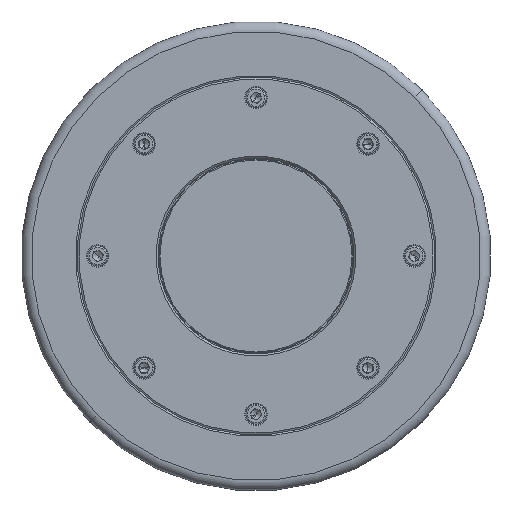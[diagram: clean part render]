
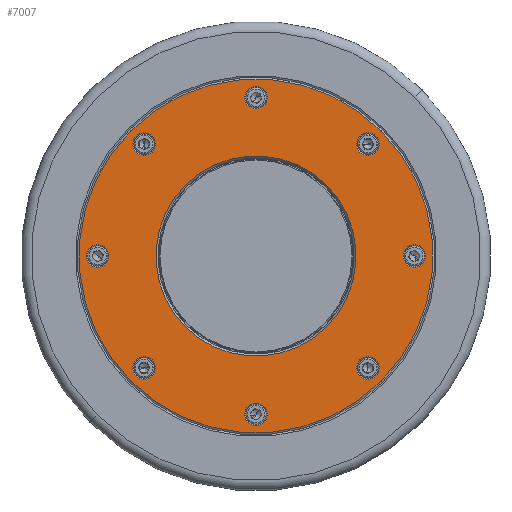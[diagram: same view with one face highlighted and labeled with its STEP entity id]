
A CAD part, left-side view. The second image highlights one B-rep face of the part: STEP entity #7007.
In plain terms, the highlighted planar face has unit normal (-1, 0, 0).
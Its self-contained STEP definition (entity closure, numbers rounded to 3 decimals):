
#5140=CARTESIAN_POINT('',(0.,0.,0.));
#5141=DIRECTION('',(-1.,0.,0.));
#5142=DIRECTION('',(0.,0.,-1.));
#5143=AXIS2_PLACEMENT_3D('',#5140,#5141,#5142);
#5145=CARTESIAN_POINT('',(0.,0.,0.));
#5146=DIRECTION('',(-1.,0.,0.));
#5147=DIRECTION('',(0.,0.,1.));
#5148=AXIS2_PLACEMENT_3D('',#5145,#5146,#5147);
#5150=CARTESIAN_POINT('',(0.,54.801,54.801));
#5151=DIRECTION('',(1.,0.,0.));
#5152=DIRECTION('',(0.,0.,-1.));
#5153=AXIS2_PLACEMENT_3D('',#5150,#5151,#5152);
#5155=CARTESIAN_POINT('',(0.,54.801,54.801));
#5156=DIRECTION('',(1.,0.,0.));
#5157=DIRECTION('',(0.,0.,1.));
#5158=AXIS2_PLACEMENT_3D('',#5155,#5156,#5157);
#5160=CARTESIAN_POINT('',(0.,0.,77.5));
#5161=DIRECTION('',(1.,0.,0.));
#5162=DIRECTION('',(0.,0.,-1.));
#5163=AXIS2_PLACEMENT_3D('',#5160,#5161,#5162);
#5165=CARTESIAN_POINT('',(0.,0.,77.5));
#5166=DIRECTION('',(1.,0.,0.));
#5167=DIRECTION('',(0.,0.,1.));
#5168=AXIS2_PLACEMENT_3D('',#5165,#5166,#5167);
#5170=CARTESIAN_POINT('',(0.,-54.801,54.801));
#5171=DIRECTION('',(1.,0.,0.));
#5172=DIRECTION('',(0.,0.,-1.));
#5173=AXIS2_PLACEMENT_3D('',#5170,#5171,#5172);
#5175=CARTESIAN_POINT('',(0.,-54.801,54.801));
#5176=DIRECTION('',(1.,0.,0.));
#5177=DIRECTION('',(0.,0.,1.));
#5178=AXIS2_PLACEMENT_3D('',#5175,#5176,#5177);
#5180=CARTESIAN_POINT('',(0.,-77.5,0.));
#5181=DIRECTION('',(1.,0.,0.));
#5182=DIRECTION('',(0.,0.,-1.));
#5183=AXIS2_PLACEMENT_3D('',#5180,#5181,#5182);
#5185=CARTESIAN_POINT('',(0.,-77.5,0.));
#5186=DIRECTION('',(1.,0.,0.));
#5187=DIRECTION('',(0.,0.,1.));
#5188=AXIS2_PLACEMENT_3D('',#5185,#5186,#5187);
#5190=CARTESIAN_POINT('',(0.,-54.801,-54.801));
#5191=DIRECTION('',(1.,0.,0.));
#5192=DIRECTION('',(0.,0.,-1.));
#5193=AXIS2_PLACEMENT_3D('',#5190,#5191,#5192);
#5195=CARTESIAN_POINT('',(0.,-54.801,-54.801));
#5196=DIRECTION('',(1.,0.,0.));
#5197=DIRECTION('',(0.,0.,1.));
#5198=AXIS2_PLACEMENT_3D('',#5195,#5196,#5197);
#5200=CARTESIAN_POINT('',(0.,0.,-77.5));
#5201=DIRECTION('',(1.,0.,0.));
#5202=DIRECTION('',(0.,0.,-1.));
#5203=AXIS2_PLACEMENT_3D('',#5200,#5201,#5202);
#5205=CARTESIAN_POINT('',(0.,0.,-77.5));
#5206=DIRECTION('',(1.,0.,0.));
#5207=DIRECTION('',(0.,0.,1.));
#5208=AXIS2_PLACEMENT_3D('',#5205,#5206,#5207);
#5210=CARTESIAN_POINT('',(0.,54.801,-54.801));
#5211=DIRECTION('',(1.,0.,0.));
#5212=DIRECTION('',(0.,0.,-1.));
#5213=AXIS2_PLACEMENT_3D('',#5210,#5211,#5212);
#5215=CARTESIAN_POINT('',(0.,54.801,-54.801));
#5216=DIRECTION('',(1.,0.,0.));
#5217=DIRECTION('',(0.,0.,1.));
#5218=AXIS2_PLACEMENT_3D('',#5215,#5216,#5217);
#5220=CARTESIAN_POINT('',(0.,77.5,0.));
#5221=DIRECTION('',(1.,0.,0.));
#5222=DIRECTION('',(0.,0.,-1.));
#5223=AXIS2_PLACEMENT_3D('',#5220,#5221,#5222);
#5225=CARTESIAN_POINT('',(0.,77.5,0.));
#5226=DIRECTION('',(1.,0.,0.));
#5227=DIRECTION('',(0.,0.,1.));
#5228=AXIS2_PLACEMENT_3D('',#5225,#5226,#5227);
#5230=CARTESIAN_POINT('',(0.,0.,0.));
#5231=DIRECTION('',(1.,0.,0.));
#5232=DIRECTION('',(0.,0.,-1.));
#5233=AXIS2_PLACEMENT_3D('',#5230,#5231,#5232);
#5235=CARTESIAN_POINT('',(0.,0.,0.));
#5236=DIRECTION('',(1.,0.,0.));
#5237=DIRECTION('',(0.,0.,1.));
#5238=AXIS2_PLACEMENT_3D('',#5235,#5236,#5237);
#6498=CARTESIAN_POINT('',(0.,-54.801,60.326));
#6499=CARTESIAN_POINT('',(0.,-54.801,49.276));
#6500=VERTEX_POINT('',#6498);
#6501=VERTEX_POINT('',#6499);
#6524=CARTESIAN_POINT('',(0.,0.,83.025));
#6525=CARTESIAN_POINT('',(0.,0.,71.975));
#6526=VERTEX_POINT('',#6524);
#6527=VERTEX_POINT('',#6525);
#6536=CARTESIAN_POINT('',(0.,-77.5,5.525));
#6537=CARTESIAN_POINT('',(0.,-77.5,-5.525));
#6538=VERTEX_POINT('',#6536);
#6539=VERTEX_POINT('',#6537);
#6542=CARTESIAN_POINT('',(0.,54.801,60.326));
#6543=CARTESIAN_POINT('',(0.,54.801,49.276));
#6544=VERTEX_POINT('',#6542);
#6545=VERTEX_POINT('',#6543);
#6571=CARTESIAN_POINT('',(0.,0.,-71.975));
#6573=VERTEX_POINT('',#6571);
#6588=CARTESIAN_POINT('',(0.,0.,-49.));
#6589=CARTESIAN_POINT('',(0.,0.,49.));
#6590=VERTEX_POINT('',#6588);
#6591=VERTEX_POINT('',#6589);
#6660=CARTESIAN_POINT('',(0.,54.801,-60.326));
#6661=CARTESIAN_POINT('',(0.,54.801,-49.276));
#6662=VERTEX_POINT('',#6660);
#6663=VERTEX_POINT('',#6661);
#6694=CARTESIAN_POINT('',(0.,0.,-83.025));
#6695=VERTEX_POINT('',#6694);
#6704=CARTESIAN_POINT('',(0.,77.5,-5.525));
#6705=CARTESIAN_POINT('',(0.,77.5,5.525));
#6706=VERTEX_POINT('',#6704);
#6707=VERTEX_POINT('',#6705);
#6710=CARTESIAN_POINT('',(0.,-54.801,-60.326));
#6711=CARTESIAN_POINT('',(0.,-54.801,-49.276));
#6712=VERTEX_POINT('',#6710);
#6713=VERTEX_POINT('',#6711);
#6718=CARTESIAN_POINT('',(0.,0.,86.634));
#6719=CARTESIAN_POINT('',(0.,0.,
-86.634));
#6720=VERTEX_POINT('',#6718);
#6721=VERTEX_POINT('',#6719);
#6944=CARTESIAN_POINT('',(0.,49.,0.));
#6945=DIRECTION('',(1.,0.,0.));
#6946=DIRECTION('',(0.,0.,-1.));
#6947=AXIS2_PLACEMENT_3D('',#6944,#6945,#6946);
#6948=PLANE('',#6947);
#6949=ORIENTED_EDGE('',*,*,#6926,.F.);
#6950=ORIENTED_EDGE('',*,*,#6936,.F.);
#6951=EDGE_LOOP('',(#6949,#6950));
#6952=FACE_OUTER_BOUND('',#6951,.F.);
#6954=ORIENTED_EDGE('',*,*,#6953,.F.);
#6956=ORIENTED_EDGE('',*,*,#6955,.F.);
#6957=EDGE_LOOP('',(#6954,#6956));
#6958=FACE_BOUND('',#6957,.F.);
#6960=ORIENTED_EDGE('',*,*,#6959,.F.);
#6962=ORIENTED_EDGE('',*,*,#6961,.F.);
#6963=EDGE_LOOP('',(#6960,#6962));
#6964=FACE_BOUND('',#6963,.F.);
#6966=ORIENTED_EDGE('',*,*,#6965,.F.);
#6968=ORIENTED_EDGE('',*,*,#6967,.F.);
#6969=EDGE_LOOP('',(#6966,#6968));
#6970=FACE_BOUND('',#6969,.F.);
#6972=ORIENTED_EDGE('',*,*,#6971,.F.);
#6974=ORIENTED_EDGE('',*,*,#6973,.F.);
#6975=EDGE_LOOP('',(#6972,#6974));
#6976=FACE_BOUND('',#6975,.F.);
#6978=ORIENTED_EDGE('',*,*,#6977,.F.);
#6980=ORIENTED_EDGE('',*,*,#6979,.F.);
#6981=EDGE_LOOP('',(#6978,#6980));
#6982=FACE_BOUND('',#6981,.F.);
#6984=ORIENTED_EDGE('',*,*,#6983,.F.);
#6986=ORIENTED_EDGE('',*,*,#6985,.F.);
#6987=EDGE_LOOP('',(#6984,#6986));
#6988=FACE_BOUND('',#6987,.F.);
#6990=ORIENTED_EDGE('',*,*,#6989,.F.);
#6992=ORIENTED_EDGE('',*,*,#6991,.F.);
#6993=EDGE_LOOP('',(#6990,#6992));
#6994=FACE_BOUND('',#6993,.F.);
#6996=ORIENTED_EDGE('',*,*,#6995,.F.);
#6998=ORIENTED_EDGE('',*,*,#6997,.F.);
#6999=EDGE_LOOP('',(#6996,#6998));
#7000=FACE_BOUND('',#6999,.F.);
#7002=ORIENTED_EDGE('',*,*,#7001,.F.);
#7004=ORIENTED_EDGE('',*,*,#7003,.F.);
#7005=EDGE_LOOP('',(#7002,#7004));
#7006=FACE_BOUND('',#7005,.F.);
#7007=ADVANCED_FACE('',(#6952,#6958,#6964,#6970,#6976,#6982,#6988,#6994,#7000,
#7006),#6948,.F.);
#5144=CIRCLE('',#5143,86.634);
#5149=CIRCLE('',#5148,86.634);
#5154=CIRCLE('',#5153,5.525);
#5159=CIRCLE('',#5158,5.525);
#5164=CIRCLE('',#5163,5.525);
#5169=CIRCLE('',#5168,5.525);
#5174=CIRCLE('',#5173,5.525);
#5179=CIRCLE('',#5178,5.525);
#5184=CIRCLE('',#5183,5.525);
#5189=CIRCLE('',#5188,5.525);
#5194=CIRCLE('',#5193,5.525);
#5199=CIRCLE('',#5198,5.525);
#5204=CIRCLE('',#5203,5.525);
#5209=CIRCLE('',#5208,5.525);
#5214=CIRCLE('',#5213,5.525);
#5219=CIRCLE('',#5218,5.525);
#5224=CIRCLE('',#5223,5.525);
#5229=CIRCLE('',#5228,5.525);
#5234=CIRCLE('',#5233,49.);
#5239=CIRCLE('',#5238,49.);
#6926=EDGE_CURVE('',#6721,#6720,#5144,.T.);
#6936=EDGE_CURVE('',#6720,#6721,#5149,.T.);
#6953=EDGE_CURVE('',#6545,#6544,#5154,.T.);
#6955=EDGE_CURVE('',#6544,#6545,#5159,.T.);
#6959=EDGE_CURVE('',#6527,#6526,#5164,.T.);
#6961=EDGE_CURVE('',#6526,#6527,#5169,.T.);
#6965=EDGE_CURVE('',#6501,#6500,#5174,.T.);
#6967=EDGE_CURVE('',#6500,#6501,#5179,.T.);
#6971=EDGE_CURVE('',#6539,#6538,#5184,.T.);
#6973=EDGE_CURVE('',#6538,#6539,#5189,.T.);
#6977=EDGE_CURVE('',#6712,#6713,#5194,.T.);
#6979=EDGE_CURVE('',#6713,#6712,#5199,.T.);
#6983=EDGE_CURVE('',#6695,#6573,#5204,.T.);
#6985=EDGE_CURVE('',#6573,#6695,#5209,.T.);
#6989=EDGE_CURVE('',#6662,#6663,#5214,.T.);
#6991=EDGE_CURVE('',#6663,#6662,#5219,.T.);
#6995=EDGE_CURVE('',#6706,#6707,#5224,.T.);
#6997=EDGE_CURVE('',#6707,#6706,#5229,.T.);
#7001=EDGE_CURVE('',#6590,#6591,#5234,.T.);
#7003=EDGE_CURVE('',#6591,#6590,#5239,.T.);
